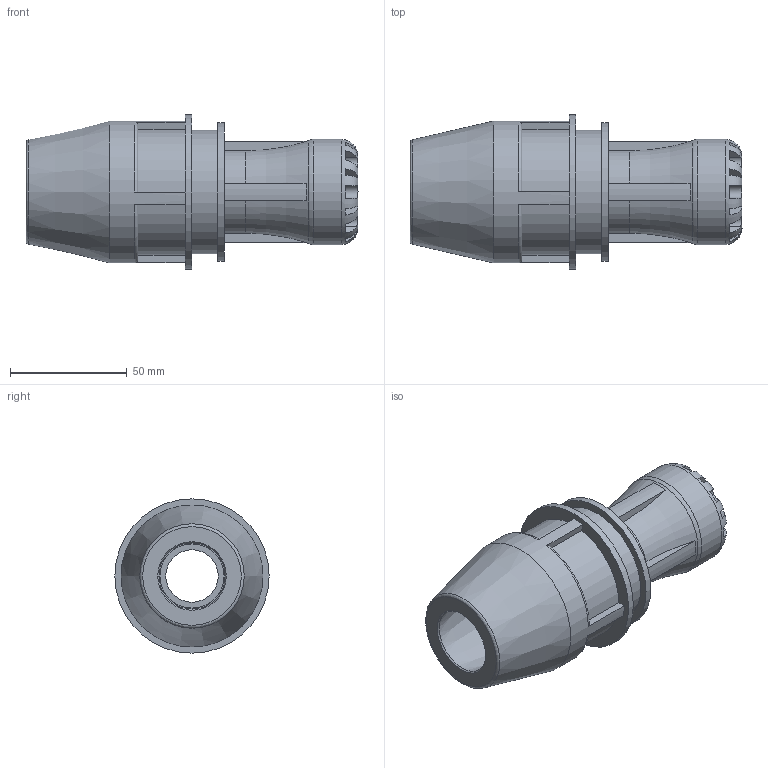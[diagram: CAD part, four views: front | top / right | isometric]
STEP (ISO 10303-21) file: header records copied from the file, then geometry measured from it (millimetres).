
FILE_DESCRIPTION(/* description */ ('PLASSON UNIVERSAL COUPLING 24-28X25 SERIES 1'),/* implementation_level */ '2;1');
FILE_NAME(/* name */ 'C:\Dropbox\KIMPROJECTS-Inventor\99-16-3568-Processing\S1\27.01.19\10017\100170025028.ipt.stp',/* time_stamp */ '2019-01-27T09:12:00+02:00',/* author */ ('KIM'),/* organization */ (''),/* preprocessor_version */ 'ST-DEVELOPER v15.6',/* originating_system */ 'Autodesk Inventor 2015',/* authorisation */ '');
FILE_SCHEMA (('AUTOMOTIVE_DESIGN { 1 0 10303 214 3 1 1 }'));
Length unit declared in the file: millimetre
Products named in the file (1): 100170025028
Bounding box: 142 x 66 x 66 mm (x, y, z)
Volume: 182615.9 mm3; surface area: 44959.7 mm2
Topology: 1 solids, 1 shells, 125 faces, 316 edges, 200 vertices
Faces by surface type: plane 77, cylinder 36, torus 8, cone 4
Full cylindrical faces by diameter (mm): 22.44 x1, 25 x1, 27.44 x1, 45 x1, 52.8 x1, 59.4 x1, 60.72 x1, 66 x1
Entity records: 4413 total; most frequent: CARTESIAN_POINT 1336, DIRECTION 616, ORIENTED_EDGE 596, EDGE_CURVE 298, AXIS2_PLACEMENT_3D 248, VERTEX_POINT 198, EDGE_LOOP 150, STYLED_ITEM 126
